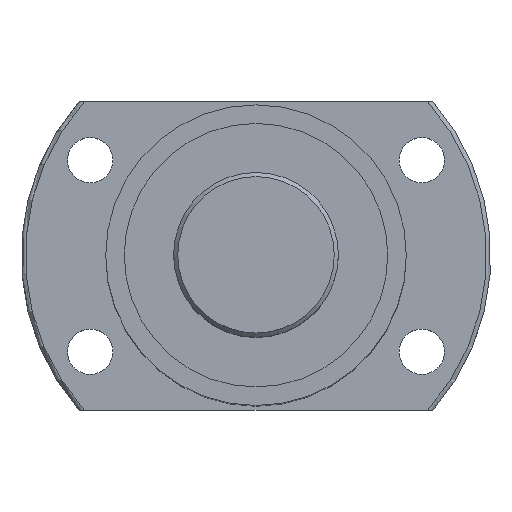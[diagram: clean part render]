
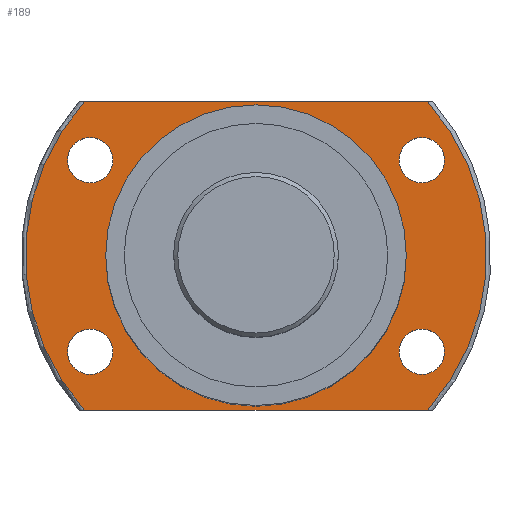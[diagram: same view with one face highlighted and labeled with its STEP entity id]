
A CAD part, top view. The second image highlights one B-rep face of the part: STEP entity #189.
In plain terms, the highlighted planar face has unit normal (0, 0, 1) as drawn and (1, 0, 0) by its records, which use the part's own axes.
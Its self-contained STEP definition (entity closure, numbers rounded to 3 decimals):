
#111=LINE('',#1341,#119);
#112=LINE('',#1342,#120);
#119=VECTOR('',#995,1.);
#120=VECTOR('',#996,1.);
#152=PLANE('',#821);
#189=ADVANCED_FACE('',(#281,#282,#283,#284,#285,#286),#152,.F.);
#281=FACE_BOUND('',#379,.T.);
#282=FACE_BOUND('',#380,.T.);
#283=FACE_BOUND('',#381,.T.);
#284=FACE_BOUND('',#382,.T.);
#285=FACE_BOUND('',#383,.T.);
#286=FACE_BOUND('',#384,.T.);
#379=EDGE_LOOP('',(#502));
#380=EDGE_LOOP('',(#503));
#381=EDGE_LOOP('',(#504));
#382=EDGE_LOOP('',(#505));
#383=EDGE_LOOP('',(#506));
#384=EDGE_LOOP('',(#507,#508,#509,#510));
#502=ORIENTED_EDGE('',*,*,#638,.F.);
#503=ORIENTED_EDGE('',*,*,#681,.T.);
#504=ORIENTED_EDGE('',*,*,#682,.T.);
#505=ORIENTED_EDGE('',*,*,#683,.T.);
#506=ORIENTED_EDGE('',*,*,#684,.T.);
#507=ORIENTED_EDGE('',*,*,#663,.T.);
#508=ORIENTED_EDGE('',*,*,#685,.T.);
#509=ORIENTED_EDGE('',*,*,#680,.T.);
#510=ORIENTED_EDGE('',*,*,#686,.F.);
#576=VERTEX_POINT('',#1098);
#599=VERTEX_POINT('',#1212);
#600=VERTEX_POINT('',#1214);
#611=VERTEX_POINT('',#1310);
#612=VERTEX_POINT('',#1330);
#613=VERTEX_POINT('',#1334);
#614=VERTEX_POINT('',#1336);
#615=VERTEX_POINT('',#1338);
#616=VERTEX_POINT('',#1340);
#638=EDGE_CURVE('',#576,#576,#708,.T.);
#663=EDGE_CURVE('',#600,#599,#728,.T.);
#680=EDGE_CURVE('',#611,#612,#736,.T.);
#681=EDGE_CURVE('',#613,#613,#737,.T.);
#682=EDGE_CURVE('',#614,#614,#738,.T.);
#683=EDGE_CURVE('',#615,#615,#739,.T.);
#684=EDGE_CURVE('',#616,#616,#740,.T.);
#685=EDGE_CURVE('',#599,#611,#111,.T.);
#686=EDGE_CURVE('',#600,#612,#112,.T.);
#708=CIRCLE('',#764,36.5);
#728=CIRCLE('',#803,56.);
#736=CIRCLE('',#815,56.);
#737=CIRCLE('',#817,5.5);
#738=CIRCLE('',#818,5.5);
#739=CIRCLE('',#819,5.5);
#740=CIRCLE('',#820,5.5);
#764=AXIS2_PLACEMENT_3D('',#1097,#875,#876);
#803=AXIS2_PLACEMENT_3D('',#1213,#955,#956);
#815=AXIS2_PLACEMENT_3D('',#1331,#983,#984);
#817=AXIS2_PLACEMENT_3D('',#1333,#987,#988);
#818=AXIS2_PLACEMENT_3D('',#1335,#989,#990);
#819=AXIS2_PLACEMENT_3D('',#1337,#991,#992);
#820=AXIS2_PLACEMENT_3D('',#1339,#993,#994);
#821=AXIS2_PLACEMENT_3D('',#1343,#997,#998);
#875=DIRECTION('',(1.,0.,0.));
#876=DIRECTION('',(0.,-1.,0.));
#955=DIRECTION('',(1.,0.,0.));
#956=DIRECTION('',(0.,1.,0.));
#983=DIRECTION('',(1.,0.,0.));
#984=DIRECTION('',(0.,1.,0.));
#987=DIRECTION('',(-1.,0.,0.));
#988=DIRECTION('',(0.,-1.,0.));
#989=DIRECTION('',(-1.,0.,0.));
#990=DIRECTION('',(0.,-1.,0.));
#991=DIRECTION('',(-1.,0.,0.));
#992=DIRECTION('',(0.,-1.,0.));
#993=DIRECTION('',(-1.,0.,0.));
#994=DIRECTION('',(0.,-1.,0.));
#995=DIRECTION('',(0.,0.,1.));
#996=DIRECTION('',(0.,0.,1.));
#997=DIRECTION('',(-1.,0.,0.));
#998=DIRECTION('',(0.,-1.,0.));
#1097=CARTESIAN_POINT('',(69.446,51.197,0.));
#1098=CARTESIAN_POINT('',(69.446,14.697,0.));
#1212=CARTESIAN_POINT('',(69.446,88.697,-41.59));
#1213=CARTESIAN_POINT('',(69.446,51.197,0.));
#1214=CARTESIAN_POINT('',(69.446,13.697,-41.59));
#1310=CARTESIAN_POINT('',(69.446,88.697,41.59));
#1330=CARTESIAN_POINT('',(69.446,13.697,41.59));
#1331=CARTESIAN_POINT('',(69.446,51.197,0.));
#1333=CARTESIAN_POINT('',(69.446,74.447,-40.27));
#1334=CARTESIAN_POINT('',(69.446,68.947,-40.27));
#1335=CARTESIAN_POINT('',(69.446,27.947,-40.27));
#1336=CARTESIAN_POINT('',(69.446,22.447,-40.27));
#1337=CARTESIAN_POINT('',(69.446,27.947,40.27));
#1338=CARTESIAN_POINT('',(69.446,22.447,40.27));
#1339=CARTESIAN_POINT('',(69.446,74.447,40.27));
#1340=CARTESIAN_POINT('',(69.446,68.947,40.27));
#1341=CARTESIAN_POINT('',(69.446,88.697,-73.72));
#1342=CARTESIAN_POINT('',(69.446,13.697,-73.72));
#1343=CARTESIAN_POINT('',(69.446,107.197,0.));
